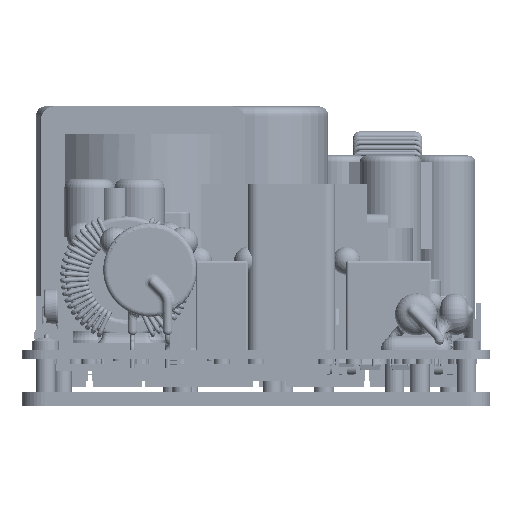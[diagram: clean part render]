
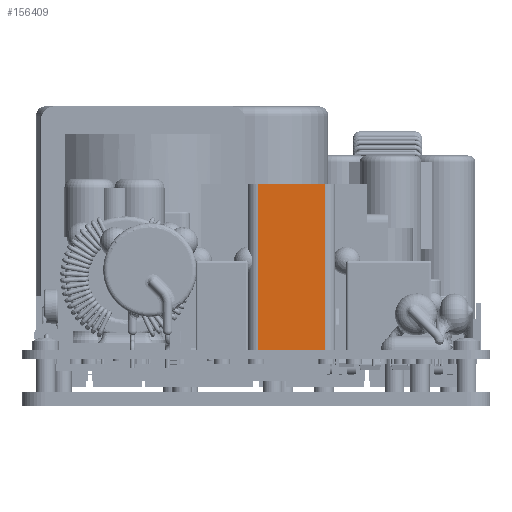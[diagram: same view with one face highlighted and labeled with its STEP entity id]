
A CAD part, left-side view. The second image highlights one B-rep face of the part: STEP entity #156409.
In plain terms, the highlighted planar face has unit normal (-1, 0, 0).
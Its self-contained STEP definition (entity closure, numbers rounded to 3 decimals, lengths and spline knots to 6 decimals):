
#27694=ORIENTED_EDGE('',*,*,#67436,.F.);
#27695=ORIENTED_EDGE('',*,*,#67437,.F.);
#27696=ORIENTED_EDGE('',*,*,#67438,.F.);
#27697=ORIENTED_EDGE('',*,*,#67439,.F.);
#67436=EDGE_CURVE('',#88359,#88360,#101522,.T.);
#67437=EDGE_CURVE('',#88361,#88359,#101523,.T.);
#67438=EDGE_CURVE('',#88362,#88361,#101524,.T.);
#67439=EDGE_CURVE('',#88360,#88362,#101525,.T.);
#88359=VERTEX_POINT('',#251971);
#88360=VERTEX_POINT('',#251972);
#88361=VERTEX_POINT('',#251974);
#88362=VERTEX_POINT('',#251976);
#101522=LINE('',#251970,#113848);
#101523=LINE('',#251973,#113849);
#101524=LINE('',#251975,#113850);
#101525=LINE('',#251977,#113851);
#113848=VECTOR('',#197690,1.);
#113849=VECTOR('',#197691,1.);
#113850=VECTOR('',#197692,1.);
#113851=VECTOR('',#197693,1.);
#127472=EDGE_LOOP('',(#27694,#27695,#27696,#27697));
#139853=FACE_BOUND('',#127472,.T.);
#150033=PLANE('',#175491);
#156409=ADVANCED_FACE('',(#139853),#150033,.T.);
#175491=AXIS2_PLACEMENT_3D('',#251969,#197688,#197689);
#197688=DIRECTION('',(-1.,0.,0.));
#197689=DIRECTION('',(0.,0.,1.));
#197690=DIRECTION('',(0.,1.,0.));
#197691=DIRECTION('',(0.,0.,-1.));
#197692=DIRECTION('',(0.,-1.,0.));
#197693=DIRECTION('',(0.,0.,1.));
#251969=CARTESIAN_POINT('',(0.001275,-0.014675,0.0355));
#251970=CARTESIAN_POINT('',(0.001275,-0.016875,0.));
#251971=CARTESIAN_POINT('',(0.001275,-0.014675,0.));
#251972=CARTESIAN_POINT('',(0.001275,-0.000425,0.));
#251973=CARTESIAN_POINT('',(0.001275,-0.014675,0.));
#251974=CARTESIAN_POINT('',(0.001275,-0.014675,0.0355));
#251975=CARTESIAN_POINT('',(0.001275,-0.016875,0.0355));
#251976=CARTESIAN_POINT('',(0.001275,-0.000425,0.0355));
#251977=CARTESIAN_POINT('',(0.001275,-0.000425,0.));
